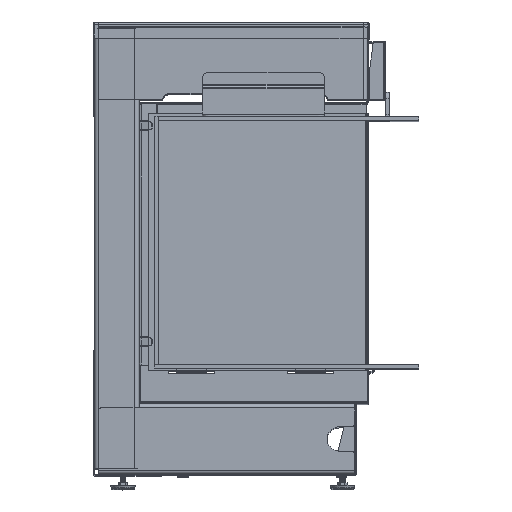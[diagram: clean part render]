
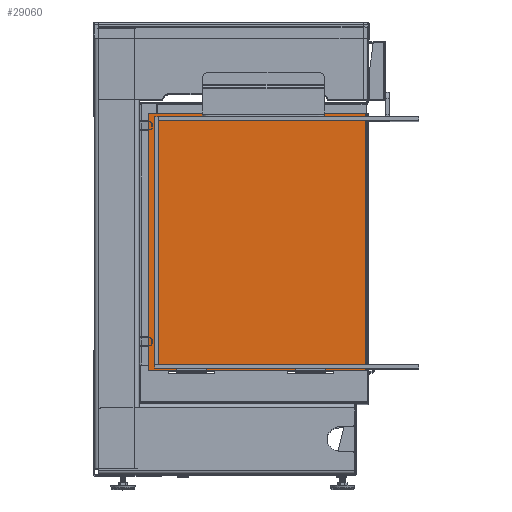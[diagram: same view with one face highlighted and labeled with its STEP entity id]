
A CAD part, top view. The second image highlights one B-rep face of the part: STEP entity #29060.
In plain terms, the highlighted planar face has unit normal (0, 0, 1).
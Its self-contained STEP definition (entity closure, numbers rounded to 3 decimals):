
#139 = CARTESIAN_POINT ( 'NONE',  ( 370.3, 51., 548.7 ) ) ;
#5946 = CARTESIAN_POINT ( 'NONE',  ( 369.8, 51., 548.7 ) ) ;
#9177 = CARTESIAN_POINT ( 'NONE',  ( 370.3, 51.5, 548.7 ) ) ;
#10577 = DIRECTION ( 'NONE',  ( 1., 0., 0. ) ) ;
#11502 = ORIENTED_EDGE ( 'NONE', *, *, #53809, .T. ) ;
#12134 = DIRECTION ( 'NONE',  ( 0., -1., 0. ) ) ;
#15287 = DIRECTION ( 'NONE',  ( 0., 0., -1. ) ) ;
#17472 = VECTOR ( 'NONE', #39776, 1000. ) ;
#17520 = LINE ( 'NONE', #38362, #54822 ) ;
#19605 = LINE ( 'NONE', #9177, #17472 ) ;
#21371 = ORIENTED_EDGE ( 'NONE', *, *, #30809, .T. ) ;
#22461 = CARTESIAN_POINT ( 'NONE',  ( 13.8, 51.5, 548.7 ) ) ;
#24690 = VERTEX_POINT ( 'NONE', #26866 ) ;
#25835 = VECTOR ( 'NONE', #32505, 1000. ) ;
#26866 = CARTESIAN_POINT ( 'NONE',  ( 369.8, 472.5, 548.7 ) ) ;
#29060 = ADVANCED_FACE ( 'Defeatured_1001', ( #30446 ), #46569, .F. ) ;
#30446 = FACE_OUTER_BOUND ( 'NONE', #51566, .T. ) ;
#30809 = EDGE_CURVE ( 'Defeatured_1001+Defeatured_10011+Defeatured_10010+Defeatured_10013', #63016, #46852, #19605, .T. ) ;
#32505 = DIRECTION ( 'NONE',  ( 0., 1., 0. ) ) ;
#34628 = VERTEX_POINT ( 'NONE', #63757 ) ;
#38326 = LINE ( 'NONE', #58869, #48520 ) ;
#38362 = CARTESIAN_POINT ( 'NONE',  ( 13.8, 51., 548.7 ) ) ;
#39776 = DIRECTION ( 'NONE',  ( 1., 0., 0. ) ) ;
#41395 = ORIENTED_EDGE ( 'NONE', *, *, #55686, .T. ) ;
#45342 = ORIENTED_EDGE ( 'NONE', *, *, #54181, .T. ) ;
#46569 = PLANE ( 'NONE',  #58313 ) ;
#46852 = VERTEX_POINT ( 'NONE', #57669 ) ;
#47296 = LINE ( 'NONE', #5946, #25835 ) ;
#48520 = VECTOR ( 'NONE', #49088, 1000. ) ;
#49088 = DIRECTION ( 'NONE',  ( -1., 0., 0. ) ) ;
#51566 = EDGE_LOOP ( 'NONE', ( #21371, #11502, #41395, #45342 ) ) ;
#53809 = EDGE_CURVE ( 'Defeatured_1001+Defeatured_10013+Defeatured_10011+Defeatured_10012', #46852, #24690, #47296, .T. ) ;
#54181 = EDGE_CURVE ( 'Defeatured_1001+Defeatured_10010+Defeatured_10012+Defeatured_10011', #34628, #63016, #17520, .T. ) ;
#54822 = VECTOR ( 'NONE', #12134, 1000. ) ;
#55686 = EDGE_CURVE ( 'Defeatured_1001+Defeatured_10012+Defeatured_10013+Defeatured_10010', #24690, #34628, #38326, .T. ) ;
#57669 = CARTESIAN_POINT ( 'NONE',  ( 369.8, 51.5, 548.7 ) ) ;
#58313 = AXIS2_PLACEMENT_3D ( 'NONE', #139, #15287, #10577 ) ;
#58869 = CARTESIAN_POINT ( 'NONE',  ( 370.3, 472.5, 548.7 ) ) ;
#63016 = VERTEX_POINT ( 'NONE', #22461 ) ;
#63757 = CARTESIAN_POINT ( 'NONE',  ( 13.8, 472.5, 548.7 ) ) ;
